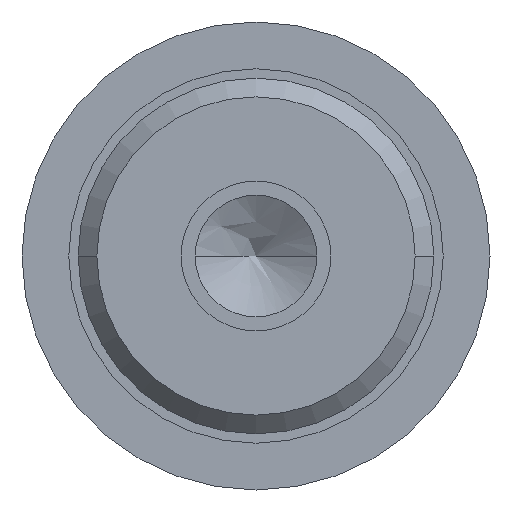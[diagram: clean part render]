
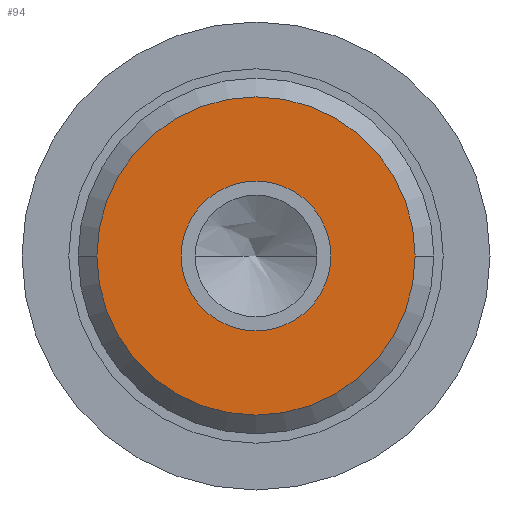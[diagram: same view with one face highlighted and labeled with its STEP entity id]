
A CAD part, left-side view. The second image highlights one B-rep face of the part: STEP entity #94.
In plain terms, the highlighted free-form (B-spline) face has degree [1, 1] with [2, 2] control points.
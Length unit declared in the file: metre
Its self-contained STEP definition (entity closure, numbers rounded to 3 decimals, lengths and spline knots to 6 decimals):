
#94 = ADVANCED_FACE( '', ( #155, #156 ), #157, .F. );
#155 = FACE_BOUND( '', #307, .T. );
#156 = FACE_OUTER_BOUND( '', #308, .T. );
#157 = B_SPLINE_SURFACE_WITH_KNOTS( '', 1, 1, ( ( #309, #310 ), ( #311, #312 ) ), .UNSPECIFIED., .F., .F., .F., ( 2, 2 ), ( 2, 2 ), ( 0., 1. ), ( 0., 1. ), .UNSPECIFIED. );
#307 = EDGE_LOOP( '', ( #503, #504 ) );
#308 = EDGE_LOOP( '', ( #505, #506 ) );
#309 = CARTESIAN_POINT( '', ( 0., -0.008602, -0.008602 ) );
#310 = CARTESIAN_POINT( '', ( 0., -0.008602, 0.008602 ) );
#311 = CARTESIAN_POINT( '', ( 0., 0.008602, -0.008602 ) );
#312 = CARTESIAN_POINT( '', ( 0., 0.008602, 0.008602 ) );
#503 = ORIENTED_EDGE( '', *, *, #686, .F. );
#504 = ORIENTED_EDGE( '', *, *, #684, .F. );
#505 = ORIENTED_EDGE( '', *, *, #689, .F. );
#506 = ORIENTED_EDGE( '', *, *, #690, .F. );
#684 = EDGE_CURVE( '', #778, #780, #781, .T. );
#686 = EDGE_CURVE( '', #780, #778, #783, .T. );
#689 = EDGE_CURVE( '', #787, #788, #789, .T. );
#690 = EDGE_CURVE( '', #788, #787, #790, .T. );
#778 = VERTEX_POINT( '', #910 );
#780 = VERTEX_POINT( '', #913 );
#781 = CIRCLE( '', #914, 0.004 );
#783 = CIRCLE( '', #917, 0.004 );
#787 = VERTEX_POINT( '', #923 );
#788 = VERTEX_POINT( '', #924 );
#789 = CIRCLE( '', #925, 0.0085 );
#790 = CIRCLE( '', #926, 0.0085 );
#910 = CARTESIAN_POINT( '', ( 0., -0.004, 0. ) );
#913 = CARTESIAN_POINT( '', ( 0., 0.004, 0. ) );
#914 = AXIS2_PLACEMENT_3D( '', #1076, #1077, #1078 );
#917 = AXIS2_PLACEMENT_3D( '', #1080, #1081, #1082 );
#923 = CARTESIAN_POINT( '', ( 0., 0.0085, 0. ) );
#924 = CARTESIAN_POINT( '', ( 0., -0.0085, 0. ) );
#925 = AXIS2_PLACEMENT_3D( '', #1085, #1086, #1087 );
#926 = AXIS2_PLACEMENT_3D( '', #1088, #1089, #1090 );
#1076 = CARTESIAN_POINT( '', ( 0., 0., 0. ) );
#1077 = DIRECTION( '', ( -1., 0., 0. ) );
#1078 = DIRECTION( '', ( 0., -1., 0. ) );
#1080 = CARTESIAN_POINT( '', ( 0., 0., 0. ) );
#1081 = DIRECTION( '', ( -1., 0., 0. ) );
#1082 = DIRECTION( '', ( 0., -1., 0. ) );
#1085 = CARTESIAN_POINT( '', ( 0., 0., 0. ) );
#1086 = DIRECTION( '', ( 1., 0., 0. ) );
#1087 = DIRECTION( '', ( 0., 1., 0. ) );
#1088 = CARTESIAN_POINT( '', ( 0., 0., 0. ) );
#1089 = DIRECTION( '', ( 1., 0., 0. ) );
#1090 = DIRECTION( '', ( 0., 1., 0. ) );
